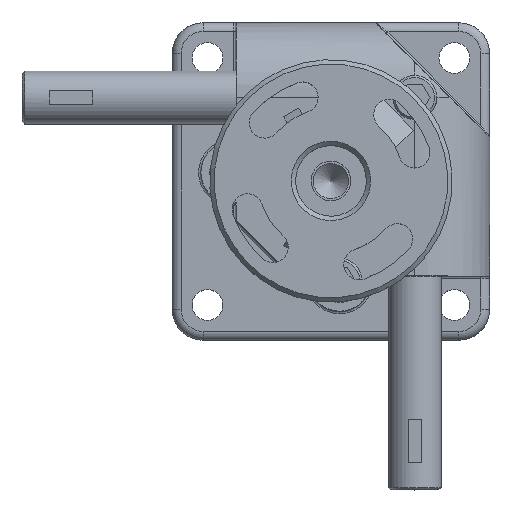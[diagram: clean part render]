
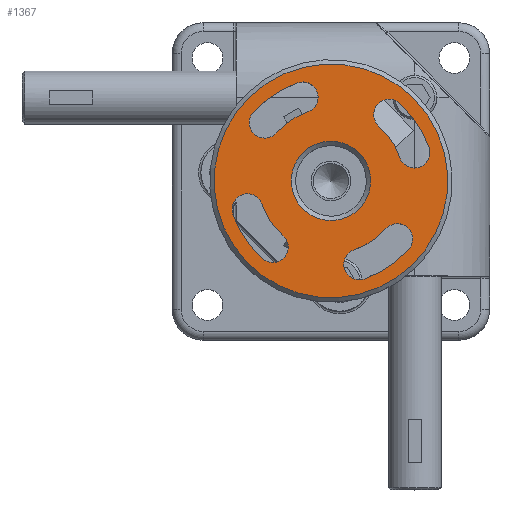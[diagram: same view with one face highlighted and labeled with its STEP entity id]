
A CAD part, top view. The second image highlights one B-rep face of the part: STEP entity #1367.
In plain terms, the highlighted planar face has unit normal (0, 0, 1) as drawn and (1, 0, 0) by its records, which use the part's own axes.
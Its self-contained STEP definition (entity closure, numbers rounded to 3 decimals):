
#1367=ADVANCED_FACE('',(#4350,#4351,#4352,#4353,#4354,#4355),#4356,.T.);
#4350=FACE_OUTER_BOUND('',#9469,.T.);
#4351=FACE_BOUND('',#9470,.T.);
#4352=FACE_BOUND('',#9471,.T.);
#4353=FACE_BOUND('',#9472,.T.);
#4354=FACE_BOUND('',#9473,.T.);
#4355=FACE_BOUND('',#9474,.T.);
#4356=PLANE('',#9475);
#9469=EDGE_LOOP('',(#20029));
#9470=EDGE_LOOP('',(#20030));
#9471=EDGE_LOOP('',(#20031,#20032,#20033,#20034));
#9472=EDGE_LOOP('',(#20035,#20036,#20037,#20038));
#9473=EDGE_LOOP('',(#20039,#20040,#20041,#20042));
#9474=EDGE_LOOP('',(#20043,#20044,#20045,#20046));
#9475=AXIS2_PLACEMENT_3D('',#20047,#20048,#20049);
#20029=ORIENTED_EDGE('',*,*,#39010,.T.);
#20030=ORIENTED_EDGE('',*,*,#39011,.F.);
#20031=ORIENTED_EDGE('',*,*,#39007,.F.);
#20032=ORIENTED_EDGE('',*,*,#39012,.F.);
#20033=ORIENTED_EDGE('',*,*,#39013,.F.);
#20034=ORIENTED_EDGE('',*,*,#39004,.F.);
#20035=ORIENTED_EDGE('',*,*,#39001,.F.);
#20036=ORIENTED_EDGE('',*,*,#39014,.F.);
#20037=ORIENTED_EDGE('',*,*,#39015,.F.);
#20038=ORIENTED_EDGE('',*,*,#39016,.F.);
#20039=ORIENTED_EDGE('',*,*,#38979,.F.);
#20040=ORIENTED_EDGE('',*,*,#39017,.F.);
#20041=ORIENTED_EDGE('',*,*,#39018,.F.);
#20042=ORIENTED_EDGE('',*,*,#38998,.F.);
#20043=ORIENTED_EDGE('',*,*,#39019,.F.);
#20044=ORIENTED_EDGE('',*,*,#38974,.F.);
#20045=ORIENTED_EDGE('',*,*,#38997,.F.);
#20046=ORIENTED_EDGE('',*,*,#38970,.F.);
#20047=CARTESIAN_POINT('',(0.0,0.0,0.0));
#20048=DIRECTION('',(1.0,0.,0.));
#20049=DIRECTION('',(0.,0.,1.0));
#38970=EDGE_CURVE('',#46700,#46703,#46704,.T.);
#38974=EDGE_CURVE('',#46708,#46711,#46712,.T.);
#38979=EDGE_CURVE('',#46718,#46721,#46722,.T.);
#38997=EDGE_CURVE('',#46703,#46708,#46753,.T.);
#38998=EDGE_CURVE('',#46721,#46754,#46755,.T.);
#39001=EDGE_CURVE('',#46757,#46759,#46760,.T.);
#39004=EDGE_CURVE('',#46762,#46764,#46765,.T.);
#39007=EDGE_CURVE('',#46767,#46762,#46769,.T.);
#39010=EDGE_CURVE('',#46774,#46774,#46775,.T.);
#39011=EDGE_CURVE('',#46776,#46776,#46777,.T.);
#39012=EDGE_CURVE('',#46778,#46767,#46779,.T.);
#39013=EDGE_CURVE('',#46764,#46778,#46780,.T.);
#39014=EDGE_CURVE('',#46781,#46757,#46782,.T.);
#39015=EDGE_CURVE('',#46783,#46781,#46784,.T.);
#39016=EDGE_CURVE('',#46759,#46783,#46785,.T.);
#39017=EDGE_CURVE('',#46786,#46718,#46787,.T.);
#39018=EDGE_CURVE('',#46754,#46786,#46788,.T.);
#39019=EDGE_CURVE('',#46711,#46700,#46789,.T.);
#46700=VERTEX_POINT('',#59110);
#46703=VERTEX_POINT('',#59114);
#46704=CIRCLE('',#59115,3.5);
#46708=VERTEX_POINT('',#59120);
#46711=VERTEX_POINT('',#59124);
#46712=CIRCLE('',#59125,3.5);
#46718=VERTEX_POINT('',#59132);
#46721=VERTEX_POINT('',#59136);
#46722=CIRCLE('',#59137,16.5);
#46753=CIRCLE('',#59169,23.5);
#46754=VERTEX_POINT('',#59170);
#46755=CIRCLE('',#59171,3.5);
#46757=VERTEX_POINT('',#59174);
#46759=VERTEX_POINT('',#59177);
#46760=CIRCLE('',#59178,16.5);
#46762=VERTEX_POINT('',#59181);
#46764=VERTEX_POINT('',#59184);
#46765=CIRCLE('',#59185,3.5);
#46767=VERTEX_POINT('',#59188);
#46769=CIRCLE('',#59191,23.5);
#46774=VERTEX_POINT('',#59196);
#46775=CIRCLE('',#59197,26.5);
#46776=VERTEX_POINT('',#59198);
#46777=CIRCLE('',#59199,9.0);
#46778=VERTEX_POINT('',#59200);
#46779=CIRCLE('',#59201,3.5);
#46780=CIRCLE('',#59202,16.5);
#46781=VERTEX_POINT('',#59203);
#46782=CIRCLE('',#59204,3.5);
#46783=VERTEX_POINT('',#59205);
#46784=CIRCLE('',#59206,23.5);
#46785=CIRCLE('',#59207,3.5);
#46786=VERTEX_POINT('',#59208);
#46787=CIRCLE('',#59209,3.5);
#46788=CIRCLE('',#59210,23.5);
#46789=CIRCLE('',#59211,16.5);
#59110=CARTESIAN_POINT('',(0.,-4.271,-15.938));
#59114=CARTESIAN_POINT('',(0.,-6.082,-22.699));
#59115=AXIS2_PLACEMENT_3D('',#77581,#77582,#77583);
#59120=CARTESIAN_POINT('',(0.,6.082,-22.699));
#59124=CARTESIAN_POINT('',(0.,4.271,-15.938));
#59125=AXIS2_PLACEMENT_3D('',#77589,#77590,#77591);
#59132=CARTESIAN_POINT('',(0.0,-15.938,-4.271));
#59136=CARTESIAN_POINT('',(0.0,-15.938,4.271));
#59137=AXIS2_PLACEMENT_3D('',#77600,#77601,#77602);
#59169=AXIS2_PLACEMENT_3D('',#77652,#77653,#77654);
#59170=CARTESIAN_POINT('',(0.0,-22.699,6.082));
#59171=AXIS2_PLACEMENT_3D('',#77655,#77656,#77657);
#59174=CARTESIAN_POINT('',(0.,-4.271,15.938));
#59177=CARTESIAN_POINT('',(0.,4.271,15.938));
#59178=AXIS2_PLACEMENT_3D('',#77660,#77661,#77662);
#59181=CARTESIAN_POINT('',(0.0,22.699,6.082));
#59184=CARTESIAN_POINT('',(0.0,15.938,4.271));
#59185=AXIS2_PLACEMENT_3D('',#77665,#77666,#77667);
#59188=CARTESIAN_POINT('',(0.0,22.699,-6.082));
#59191=AXIS2_PLACEMENT_3D('',#77670,#77671,#77672);
#59196=CARTESIAN_POINT('',(0.0,26.5,0.));
#59197=AXIS2_PLACEMENT_3D('',#77679,#77680,#77681);
#59198=CARTESIAN_POINT('',(0.,9.0,0.));
#59199=AXIS2_PLACEMENT_3D('',#77682,#77683,#77684);
#59200=CARTESIAN_POINT('',(0.0,15.938,-4.271));
#59201=AXIS2_PLACEMENT_3D('',#77685,#77686,#77687);
#59202=AXIS2_PLACEMENT_3D('',#77688,#77689,#77690);
#59203=CARTESIAN_POINT('',(0.,-6.082,22.699));
#59204=AXIS2_PLACEMENT_3D('',#77691,#77692,#77693);
#59205=CARTESIAN_POINT('',(0.,6.082,22.699));
#59206=AXIS2_PLACEMENT_3D('',#77694,#77695,#77696);
#59207=AXIS2_PLACEMENT_3D('',#77697,#77698,#77699);
#59208=CARTESIAN_POINT('',(0.0,-22.699,-6.082));
#59209=AXIS2_PLACEMENT_3D('',#77700,#77701,#77702);
#59210=AXIS2_PLACEMENT_3D('',#77703,#77704,#77705);
#59211=AXIS2_PLACEMENT_3D('',#77706,#77707,#77708);
#77581=CARTESIAN_POINT('',(0.,-5.176,-19.319));
#77582=DIRECTION('',(1.0,-0.0,0.));
#77583=DIRECTION('',(0.0,1.0,0.0));
#77589=CARTESIAN_POINT('',(0.,5.176,-19.319));
#77590=DIRECTION('',(1.0,-0.0,0.));
#77591=DIRECTION('',(0.0,1.0,0.0));
#77600=CARTESIAN_POINT('',(0.0,0.0,0.0));
#77601=DIRECTION('',(-1.0,0.0,0.));
#77602=DIRECTION('',(0.0,1.0,0.0));
#77652=CARTESIAN_POINT('',(0.0,0.0,0.0));
#77653=DIRECTION('',(1.0,-0.0,0.));
#77654=DIRECTION('',(0.0,1.0,0.0));
#77655=CARTESIAN_POINT('',(0.0,-19.319,5.176));
#77656=DIRECTION('',(1.0,-0.0,0.));
#77657=DIRECTION('',(0.0,1.0,0.0));
#77660=CARTESIAN_POINT('',(0.0,0.0,0.0));
#77661=DIRECTION('',(-1.0,0.0,0.));
#77662=DIRECTION('',(0.0,1.0,0.0));
#77665=CARTESIAN_POINT('',(0.0,19.319,5.176));
#77666=DIRECTION('',(1.0,-0.0,0.));
#77667=DIRECTION('',(0.0,1.0,0.0));
#77670=CARTESIAN_POINT('',(0.0,0.0,0.0));
#77671=DIRECTION('',(1.0,-0.0,0.));
#77672=DIRECTION('',(0.0,1.0,0.0));
#77679=CARTESIAN_POINT('',(0.0,0.,0.));
#77680=DIRECTION('',(1.0,-0.0,0.));
#77681=DIRECTION('',(0.0,1.0,0.0));
#77682=CARTESIAN_POINT('',(0.,0.0,0.));
#77683=DIRECTION('',(1.0,0.,0.));
#77684=DIRECTION('',(0.,1.0,0.));
#77685=CARTESIAN_POINT('',(0.0,19.319,-5.176));
#77686=DIRECTION('',(1.0,-0.0,0.));
#77687=DIRECTION('',(0.0,1.0,0.0));
#77688=CARTESIAN_POINT('',(0.0,0.0,0.0));
#77689=DIRECTION('',(-1.0,0.0,0.));
#77690=DIRECTION('',(0.0,1.0,0.0));
#77691=CARTESIAN_POINT('',(0.,-5.176,19.319));
#77692=DIRECTION('',(1.0,-0.0,0.));
#77693=DIRECTION('',(0.0,1.0,0.0));
#77694=CARTESIAN_POINT('',(0.0,0.0,0.0));
#77695=DIRECTION('',(1.0,-0.0,0.));
#77696=DIRECTION('',(0.0,1.0,0.0));
#77697=CARTESIAN_POINT('',(0.,5.176,19.319));
#77698=DIRECTION('',(1.0,-0.0,0.));
#77699=DIRECTION('',(0.0,1.0,0.0));
#77700=CARTESIAN_POINT('',(0.0,-19.319,-5.176));
#77701=DIRECTION('',(1.0,-0.0,0.));
#77702=DIRECTION('',(0.0,1.0,0.0));
#77703=CARTESIAN_POINT('',(0.0,0.0,0.0));
#77704=DIRECTION('',(1.0,-0.0,0.));
#77705=DIRECTION('',(0.0,1.0,0.0));
#77706=CARTESIAN_POINT('',(0.0,0.0,0.0));
#77707=DIRECTION('',(-1.0,0.0,0.));
#77708=DIRECTION('',(0.0,1.0,0.0));
